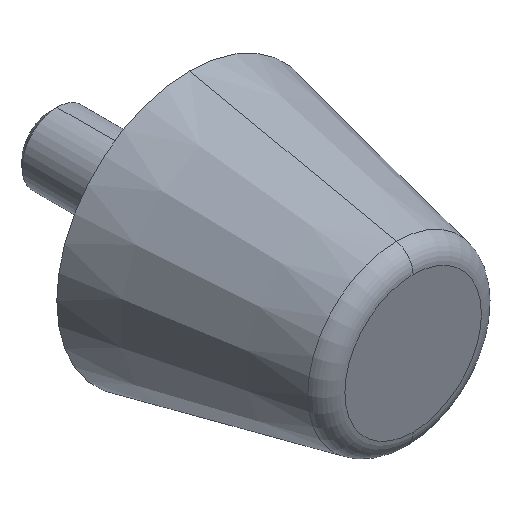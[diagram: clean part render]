
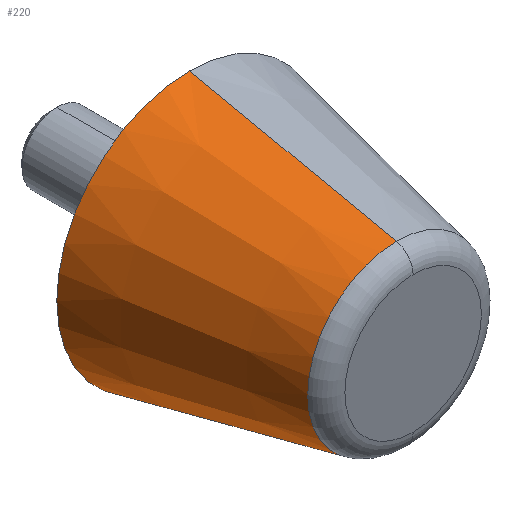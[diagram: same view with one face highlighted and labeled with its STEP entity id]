
A CAD part, isometric view. The second image highlights one B-rep face of the part: STEP entity #220.
In plain terms, the highlighted conical face has half-angle 11.997 degrees and reference radius 6.1 mm.
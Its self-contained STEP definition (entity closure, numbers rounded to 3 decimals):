
#37 = VERTEX_POINT ( 'NONE', #236 ) ;
#44 = AXIS2_PLACEMENT_3D ( 'NONE', #111, #464, #512 ) ;
#87 = CIRCLE ( 'NONE', #44, 9.5 ) ;
#99 = VERTEX_POINT ( 'NONE', #178 ) ;
#109 = DIRECTION ( 'NONE',  ( 0., 0., 1. ) ) ;
#111 = CARTESIAN_POINT ( 'NONE',  ( 0., 16., 0. ) ) ;
#119 = LINE ( 'NONE', #390, #349 ) ;
#133 = CIRCLE ( 'NONE', #457, 6.352 ) ;
#142 = CONICAL_SURFACE ( 'NONE', #365, 6.1, 0.209 ) ;
#149 = DIRECTION ( 'NONE',  ( 0., 1., 0. ) ) ;
#151 = LINE ( 'NONE', #157, #216 ) ;
#157 = CARTESIAN_POINT ( 'NONE',  ( 0., 0., 6.1 ) ) ;
#178 = CARTESIAN_POINT ( 'NONE',  ( 0., 16., -9.5 ) ) ;
#190 = DIRECTION ( 'NONE',  ( 0., 1., 0. ) ) ;
#202 = EDGE_LOOP ( 'NONE', ( #450, #511, #293, #323 ) ) ;
#216 = VECTOR ( 'NONE', #302, 1000. ) ;
#220 = ADVANCED_FACE ( 'NONE', ( #368 ), #142, .T. ) ;
#231 = EDGE_CURVE ( 'NONE', #237, #37, #133, .T. ) ;
#236 = CARTESIAN_POINT ( 'NONE',  ( 0., 1.188, 6.352 ) ) ;
#237 = VERTEX_POINT ( 'NONE', #292 ) ;
#292 = CARTESIAN_POINT ( 'NONE',  ( 0., 1.188, -6.352 ) ) ;
#293 = ORIENTED_EDGE ( 'NONE', *, *, #437, .T. ) ;
#302 = DIRECTION ( 'NONE',  ( 0., 0.978, 0.208 ) ) ;
#322 = CARTESIAN_POINT ( 'NONE',  ( 0., 1.188, 0. ) ) ;
#323 = ORIENTED_EDGE ( 'NONE', *, *, #504, .T. ) ;
#349 = VECTOR ( 'NONE', #487, 1000. ) ;
#365 = AXIS2_PLACEMENT_3D ( 'NONE', #543, #149, #109 ) ;
#368 = FACE_OUTER_BOUND ( 'NONE', #202, .T. ) ;
#390 = CARTESIAN_POINT ( 'NONE',  ( 0., 0., -6.1 ) ) ;
#405 = DIRECTION ( 'NONE',  ( 0., 0., -1. ) ) ;
#437 = EDGE_CURVE ( 'NONE', #37, #501, #151, .T. ) ;
#450 = ORIENTED_EDGE ( 'NONE', *, *, #551, .F. ) ;
#457 = AXIS2_PLACEMENT_3D ( 'NONE', #322, #190, #405 ) ;
#464 = DIRECTION ( 'NONE',  ( 0., -1., 0. ) ) ;
#487 = DIRECTION ( 'NONE',  ( 0., 0.978, -0.208 ) ) ;
#501 = VERTEX_POINT ( 'NONE', #510 ) ;
#504 = EDGE_CURVE ( 'NONE', #501, #99, #87, .T. ) ;
#510 = CARTESIAN_POINT ( 'NONE',  ( 0., 16., 9.5 ) ) ;
#511 = ORIENTED_EDGE ( 'NONE', *, *, #231, .T. ) ;
#512 = DIRECTION ( 'NONE',  ( 0., 0., -1. ) ) ;
#543 = CARTESIAN_POINT ( 'NONE',  ( 0., 0., 0. ) ) ;
#551 = EDGE_CURVE ( 'NONE', #237, #99, #119, .T. ) ;
